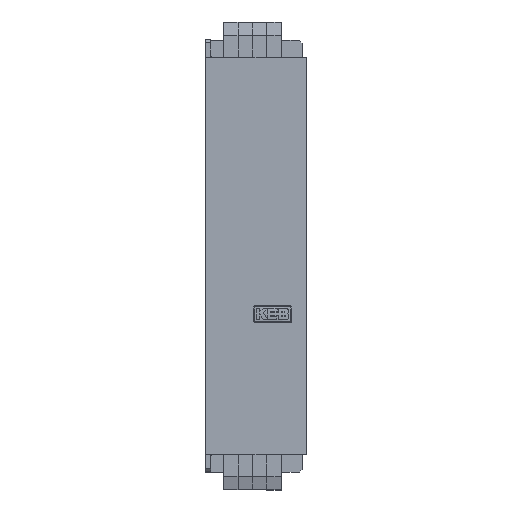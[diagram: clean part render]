
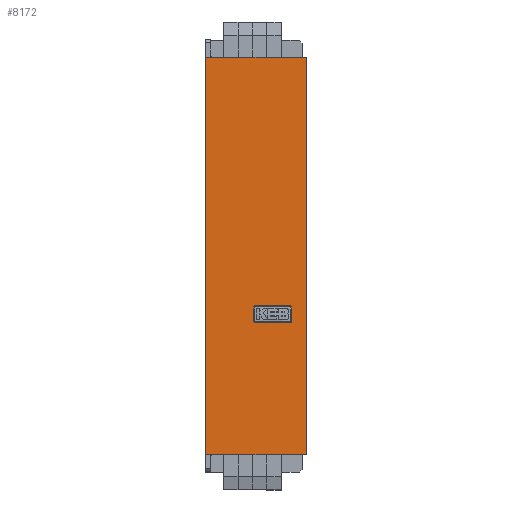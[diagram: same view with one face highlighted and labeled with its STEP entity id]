
A CAD part, top view. The second image highlights one B-rep face of the part: STEP entity #8172.
In plain terms, the highlighted planar face has unit normal (0, 0, 1).
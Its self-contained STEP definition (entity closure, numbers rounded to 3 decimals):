
#13 = ORIENTED_EDGE ( 'NONE', *, *, #1759, .T. ) ;
#203 = CARTESIAN_POINT ( 'NONE',  ( 58.5, -35.5, 160. ) ) ;
#217 = ORIENTED_EDGE ( 'NONE', *, *, #8515, .T. ) ;
#333 = VECTOR ( 'NONE', #9014, 1000. ) ;
#586 = LINE ( 'NONE', #8503, #4678 ) ;
#588 = CARTESIAN_POINT ( 'NONE',  ( 70., 138., 160. ) ) ;
#614 = VERTEX_POINT ( 'NONE', #8420 ) ;
#636 = DIRECTION ( 'NONE',  ( 0., -1., 0. ) ) ;
#766 = CIRCLE ( 'NONE', #4712, 1. ) ;
#927 = DIRECTION ( 'NONE',  ( -1., 0., 0. ) ) ;
#1005 = EDGE_LOOP ( 'NONE', ( #2334, #3367, #6298, #3950 ) ) ;
#1166 = EDGE_CURVE ( 'NONE', #8896, #1890, #8412, .T. ) ;
#1267 = LINE ( 'NONE', #5747, #3626 ) ;
#1371 = EDGE_CURVE ( 'NONE', #4402, #8587, #8423, .T. ) ;
#1382 = CARTESIAN_POINT ( 'NONE',  ( 0., -138., 160. ) ) ;
#1460 = CARTESIAN_POINT ( 'NONE',  ( 70., 138., 160. ) ) ;
#1545 = CARTESIAN_POINT ( 'NONE',  ( 70., -138., 160. ) ) ;
#1566 = CARTESIAN_POINT ( 'NONE',  ( 33.5, -35.5, 160. ) ) ;
#1759 = EDGE_CURVE ( 'NONE', #1806, #614, #586, .T. ) ;
#1791 = VECTOR ( 'NONE', #7411, 1000. ) ;
#1806 = VERTEX_POINT ( 'NONE', #3729 ) ;
#1890 = VERTEX_POINT ( 'NONE', #1566 ) ;
#2122 = VERTEX_POINT ( 'NONE', #8676 ) ;
#2166 = CARTESIAN_POINT ( 'NONE',  ( 58.5, -34.5, 160. ) ) ;
#2334 = ORIENTED_EDGE ( 'NONE', *, *, #2845, .T. ) ;
#2490 = LINE ( 'NONE', #3891, #7418 ) ;
#2646 = EDGE_CURVE ( 'NONE', #9122, #4817, #3648, .T. ) ;
#2677 = LINE ( 'NONE', #588, #3787 ) ;
#2741 = AXIS2_PLACEMENT_3D ( 'NONE', #3359, #6274, #9184 ) ;
#2845 = EDGE_CURVE ( 'NONE', #9345, #4982, #2490, .T. ) ;
#2934 = CIRCLE ( 'NONE', #8707, 1. ) ;
#2946 = DIRECTION ( 'NONE',  ( 0., -1., 0. ) ) ;
#3011 = ORIENTED_EDGE ( 'NONE', *, *, #1371, .T. ) ;
#3041 = DIRECTION ( 'NONE',  ( 0., 0., -1. ) ) ;
#3145 = DIRECTION ( 'NONE',  ( -1., 0., 0. ) ) ;
#3238 = VERTEX_POINT ( 'NONE', #9256 ) ;
#3242 = CARTESIAN_POINT ( 'NONE',  ( 0., 138., 160. ) ) ;
#3359 = CARTESIAN_POINT ( 'NONE',  ( 34.5, -35.5, 160. ) ) ;
#3367 = ORIENTED_EDGE ( 'NONE', *, *, #3621, .F. ) ;
#3453 = DIRECTION ( 'NONE',  ( 1., 0., 0. ) ) ;
#3454 = DIRECTION ( 'NONE',  ( 1., 0., 0. ) ) ;
#3463 = ORIENTED_EDGE ( 'NONE', *, *, #7137, .T. ) ;
#3538 = CARTESIAN_POINT ( 'NONE',  ( 33.5, -45.5, 160. ) ) ;
#3621 = EDGE_CURVE ( 'NONE', #4817, #4982, #1267, .T. ) ;
#3626 = VECTOR ( 'NONE', #4134, 1000. ) ;
#3648 = LINE ( 'NONE', #1545, #1791 ) ;
#3729 = CARTESIAN_POINT ( 'NONE',  ( 59.5, -35.5, 160. ) ) ;
#3787 = VECTOR ( 'NONE', #636, 1000. ) ;
#3891 = CARTESIAN_POINT ( 'NONE',  ( 70., 138., 160. ) ) ;
#3930 = EDGE_CURVE ( 'NONE', #9345, #9122, #2677, .T. ) ;
#3950 = ORIENTED_EDGE ( 'NONE', *, *, #3930, .F. ) ;
#4035 = DIRECTION ( 'NONE',  ( 0., 0., -1. ) ) ;
#4134 = DIRECTION ( 'NONE',  ( 0., 1., 0. ) ) ;
#4402 = VERTEX_POINT ( 'NONE', #6404 ) ;
#4561 = EDGE_CURVE ( 'NONE', #614, #3238, #5926, .T. ) ;
#4604 = AXIS2_PLACEMENT_3D ( 'NONE', #6479, #3041, #2946 ) ;
#4678 = VECTOR ( 'NONE', #8415, 1000. ) ;
#4712 = AXIS2_PLACEMENT_3D ( 'NONE', #203, #8210, #5930 ) ;
#4817 = VERTEX_POINT ( 'NONE', #1382 ) ;
#4947 = EDGE_LOOP ( 'NONE', ( #3011, #6591, #13, #7383, #3463, #217, #8938, #6576 ) ) ;
#4982 = VERTEX_POINT ( 'NONE', #3242 ) ;
#5242 = CARTESIAN_POINT ( 'NONE',  ( 58.5, -45.5, 160. ) ) ;
#5245 = VECTOR ( 'NONE', #6263, 1000. ) ;
#5343 = CARTESIAN_POINT ( 'NONE',  ( 70., -138., 160. ) ) ;
#5475 = LINE ( 'NONE', #8387, #333 ) ;
#5654 = CARTESIAN_POINT ( 'NONE',  ( 58.5, -34.5, 160. ) ) ;
#5747 = CARTESIAN_POINT ( 'NONE',  ( 0., -135., 160. ) ) ;
#5918 = EDGE_CURVE ( 'NONE', #8587, #1806, #766, .T. ) ;
#5926 = CIRCLE ( 'NONE', #6539, 1. ) ;
#5930 = DIRECTION ( 'NONE',  ( 1., 0., 0. ) ) ;
#6263 = DIRECTION ( 'NONE',  ( 0., 1., 0. ) ) ;
#6274 = DIRECTION ( 'NONE',  ( 0., 0., -1. ) ) ;
#6298 = ORIENTED_EDGE ( 'NONE', *, *, #2646, .F. ) ;
#6404 = CARTESIAN_POINT ( 'NONE',  ( 34.5, -34.5, 160. ) ) ;
#6479 = CARTESIAN_POINT ( 'NONE',  ( 70., -135., 160. ) ) ;
#6524 = PLANE ( 'NONE',  #4604 ) ;
#6539 = AXIS2_PLACEMENT_3D ( 'NONE', #5242, #8301, #3145 ) ;
#6576 = ORIENTED_EDGE ( 'NONE', *, *, #6592, .T. ) ;
#6591 = ORIENTED_EDGE ( 'NONE', *, *, #5918, .T. ) ;
#6592 = EDGE_CURVE ( 'NONE', #1890, #4402, #7168, .T. ) ;
#7137 = EDGE_CURVE ( 'NONE', #3238, #2122, #5475, .T. ) ;
#7168 = CIRCLE ( 'NONE', #2741, 1. ) ;
#7190 = VECTOR ( 'NONE', #3454, 1000. ) ;
#7383 = ORIENTED_EDGE ( 'NONE', *, *, #4561, .T. ) ;
#7411 = DIRECTION ( 'NONE',  ( -1., 0., 0. ) ) ;
#7418 = VECTOR ( 'NONE', #927, 1000. ) ;
#8049 = FACE_OUTER_BOUND ( 'NONE', #1005, .T. ) ;
#8172 = ADVANCED_FACE ( 'NONE', ( #8049, #8724 ), #6524, .F. ) ;
#8210 = DIRECTION ( 'NONE',  ( 0., 0., -1. ) ) ;
#8301 = DIRECTION ( 'NONE',  ( 0., 0., -1. ) ) ;
#8387 = CARTESIAN_POINT ( 'NONE',  ( 58.5, -46.5, 160. ) ) ;
#8412 = LINE ( 'NONE', #3538, #5245 ) ;
#8415 = DIRECTION ( 'NONE',  ( 0., -1., 0. ) ) ;
#8420 = CARTESIAN_POINT ( 'NONE',  ( 59.5, -45.5, 160. ) ) ;
#8423 = LINE ( 'NONE', #5654, #7190 ) ;
#8503 = CARTESIAN_POINT ( 'NONE',  ( 59.5, -45.5, 160. ) ) ;
#8515 = EDGE_CURVE ( 'NONE', #2122, #8896, #2934, .T. ) ;
#8553 = CARTESIAN_POINT ( 'NONE',  ( 33.5, -45.5, 160. ) ) ;
#8587 = VERTEX_POINT ( 'NONE', #2166 ) ;
#8676 = CARTESIAN_POINT ( 'NONE',  ( 34.5, -46.5, 160. ) ) ;
#8707 = AXIS2_PLACEMENT_3D ( 'NONE', #9278, #4035, #3453 ) ;
#8724 = FACE_BOUND ( 'NONE', #4947, .T. ) ;
#8896 = VERTEX_POINT ( 'NONE', #8553 ) ;
#8938 = ORIENTED_EDGE ( 'NONE', *, *, #1166, .T. ) ;
#9014 = DIRECTION ( 'NONE',  ( -1., 0., 0. ) ) ;
#9122 = VERTEX_POINT ( 'NONE', #5343 ) ;
#9184 = DIRECTION ( 'NONE',  ( 1., 0., 0. ) ) ;
#9256 = CARTESIAN_POINT ( 'NONE',  ( 58.5, -46.5, 160. ) ) ;
#9278 = CARTESIAN_POINT ( 'NONE',  ( 34.5, -45.5, 160. ) ) ;
#9345 = VERTEX_POINT ( 'NONE', #1460 ) ;
